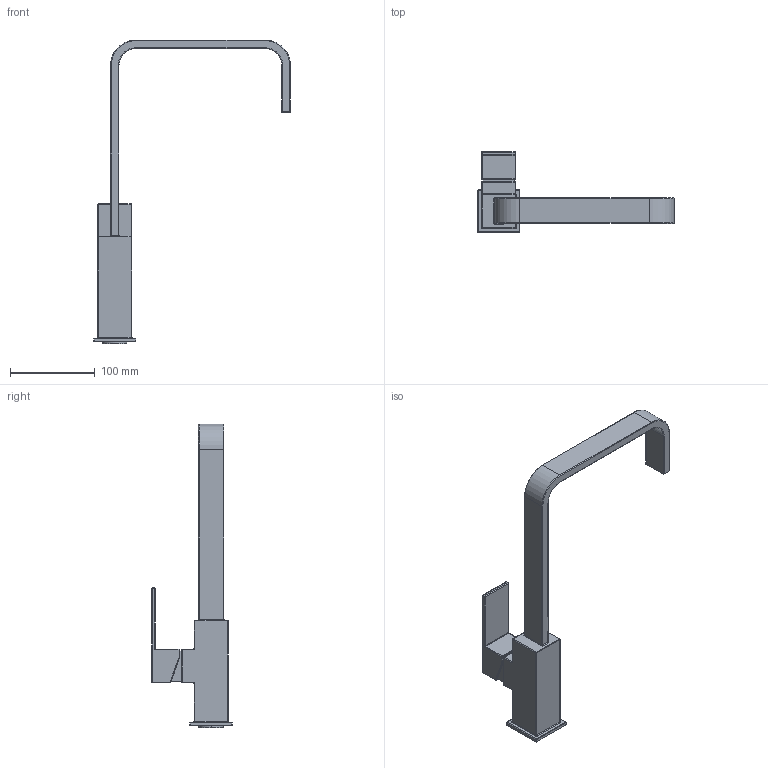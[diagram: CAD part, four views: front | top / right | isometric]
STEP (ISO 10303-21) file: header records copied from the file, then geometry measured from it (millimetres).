
FILE_DESCRIPTION(('CATIA V5 STEP Exchange'),'2;1');
FILE_NAME('\\sr02\Apell\Disegni\DISEGNI\LAVELLI\Accessori\Miscelatori\AP5001CR.stp','2016-07-15T13:46:12+00:00',('none'),('none'),'CATIA Version 5-6 Release 2014','CATIA V5 STEP AP203','none');
FILE_SCHEMA(('CONFIG_CONTROL_DESIGN'));
Length unit declared in the file: millimetre
Products named in the file (1): AP5001CR
Bounding box: 232 x 95 x 358 mm (x, y, z)
Volume: 438929.1 mm3; surface area: 77612.3 mm2
Topology: 1 solids, 1 shells, 158 faces, 362 edges, 189 vertices
Faces by surface type: cylinder 76, plane 38, torus 22, sphere 22
Entity records: 4091 total; most frequent: CARTESIAN_POINT 734, ORIENTED_EDGE 680, DIRECTION 638, EDGE_CURVE 340, AXIS2_PLACEMENT_3D 315, VERTEX_POINT 188, VECTOR 172, LINE 172
